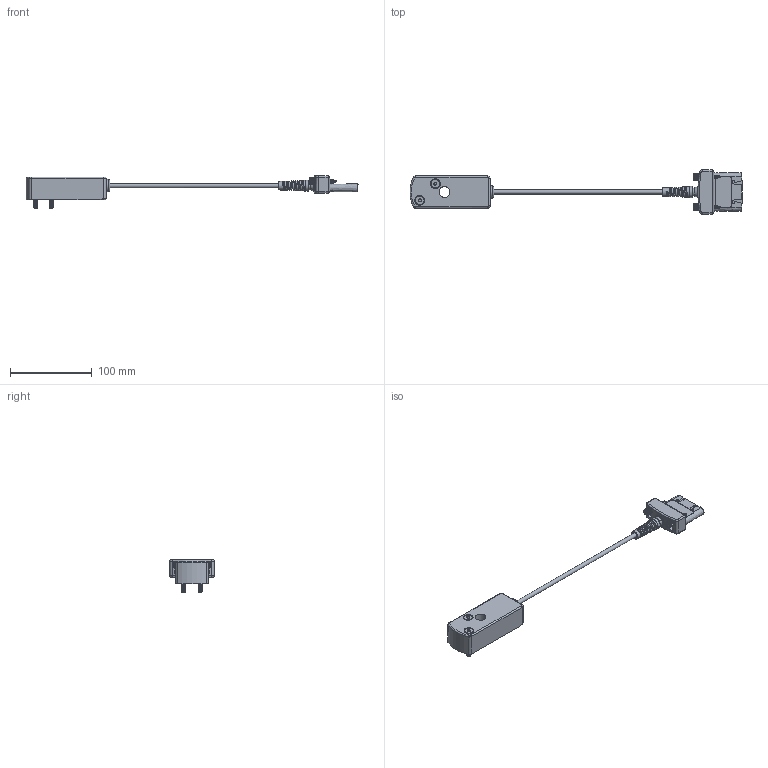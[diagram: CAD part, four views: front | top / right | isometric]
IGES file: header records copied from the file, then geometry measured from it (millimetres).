
Global section: file name: FS05_SENSOR_ADAPTER; native system: Autodesk RealDWG; preprocessor: Autodesk Translation Framework DWG producer (atf_dwg_producer); organization: unknown; date: 20210208.144733; units: inch
Bounding box: 405.55 x 54.02 x 39.71 mm (x, y, z)
Volume: 138728.1 mm3; surface area: 37143.6 mm2
Topology: 3 solids, 3 shells, 1023 faces, 2791 edges, 1815 vertices
Faces by surface type: bspline 1023
